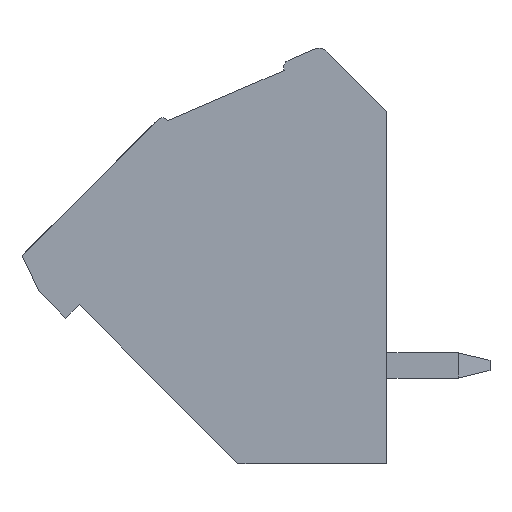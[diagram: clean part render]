
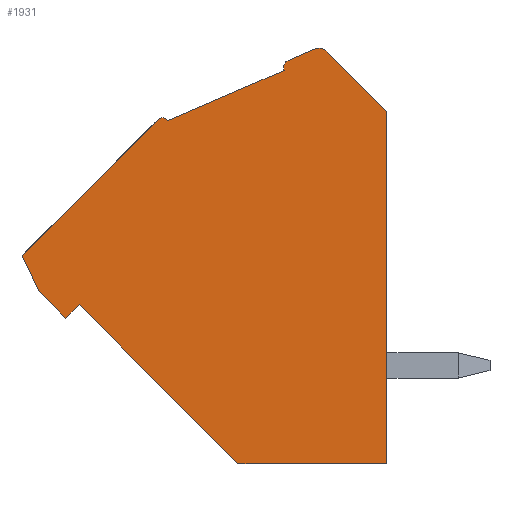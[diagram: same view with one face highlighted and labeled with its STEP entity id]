
A CAD part, left-side view. The second image highlights one B-rep face of the part: STEP entity #1931.
In plain terms, the highlighted planar face has unit normal (-1, 0, 0).
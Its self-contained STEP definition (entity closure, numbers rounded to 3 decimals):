
#1=DIRECTION('',(0.,0.707,-0.707));
#2=VECTOR('',#1,0.75);
#3=CARTESIAN_POINT('',(4.38,17.302,-12.08));
#4=LINE('',#3,#2);
#5=DIRECTION('',(0.,0.707,0.707));
#6=VECTOR('',#5,1.5);
#7=CARTESIAN_POINT('',(4.38,17.832,-12.61));
#8=LINE('',#7,#6);
#9=DIRECTION('',(0.,0.428,0.904));
#10=VECTOR('',#9,1.593);
#11=CARTESIAN_POINT('',(4.38,18.893,-11.55));
#12=LINE('',#11,#10);
#13=DIRECTION('',(0.,-0.707,0.707));
#14=VECTOR('',#13,7.6);
#15=CARTESIAN_POINT('',(4.38,19.575,-10.11));
#16=LINE('',#15,#14);
#17=CARTESIAN_POINT('',(4.38,13.989,-4.948));
#18=DIRECTION('',(1.,0.,0.));
#19=DIRECTION('',(0.,0.707,0.707));
#20=AXIS2_PLACEMENT_3D('',#17,#18,#19);
#22=DIRECTION('',(0.,-0.707,-0.707));
#23=VECTOR('',#22,0.023);
#24=CARTESIAN_POINT('',(4.38,13.777,-4.736));
#25=LINE('',#24,#23);
#26=DIRECTION('',(0.,-0.918,0.396));
#27=VECTOR('',#26,5.015);
#28=CARTESIAN_POINT('',(4.38,13.761,-4.752));
#29=LINE('',#28,#27);
#30=CARTESIAN_POINT('',(4.38,8.881,-2.646));
#31=DIRECTION('',(1.,0.,0.));
#32=DIRECTION('',(0.,0.918,-0.396));
#33=AXIS2_PLACEMENT_3D('',#30,#31,#32);
#35=DIRECTION('',(0.,-0.918,0.396));
#36=VECTOR('',#35,1.11);
#37=CARTESIAN_POINT('',(4.38,9.,-2.371));
#38=LINE('',#37,#36);
#39=CARTESIAN_POINT('',(4.38,7.782,-2.39));
#40=DIRECTION('',(1.,0.,0.));
#41=DIRECTION('',(0.,0.396,0.918));
#42=AXIS2_PLACEMENT_3D('',#39,#40,#41);
#44=DIRECTION('',(0.,-0.707,-0.707));
#45=VECTOR('',#44,3.328);
#46=CARTESIAN_POINT('',(4.38,7.429,-2.036));
#47=LINE('',#46,#45);
#48=DIRECTION('',(0.,0.707,0.707));
#49=VECTOR('',#48,8.924);
#50=CARTESIAN_POINT('',(4.38,10.992,-18.39));
#51=LINE('',#50,#49);
#72=DIRECTION('',(0.,-1.,0.));
#73=VECTOR('',#72,5.917);
#74=CARTESIAN_POINT('',(4.38,10.992,-18.39));
#75=LINE('',#74,#73);
#212=DIRECTION('',(0.,0.,1.));
#213=VECTOR('',#212,14.);
#214=CARTESIAN_POINT('',(4.38,5.075,-18.39));
#215=LINE('',#214,#213);
#1456=CARTESIAN_POINT('',(4.38,17.302,-12.08));
#1457=CARTESIAN_POINT('',(4.38,17.832,-12.61));
#1458=VERTEX_POINT('',#1456);
#1459=VERTEX_POINT('',#1457);
#1460=CARTESIAN_POINT('',(4.38,18.893,-11.55));
#1461=VERTEX_POINT('',#1460);
#1462=CARTESIAN_POINT('',(4.38,19.575,-10.11));
#1463=VERTEX_POINT('',#1462);
#1464=CARTESIAN_POINT('',(4.38,14.201,-4.736));
#1465=VERTEX_POINT('',#1464);
#1466=CARTESIAN_POINT('',(4.38,13.777,-4.736));
#1467=VERTEX_POINT('',#1466);
#1468=CARTESIAN_POINT('',(4.38,13.761,-4.752));
#1469=VERTEX_POINT('',#1468);
#1470=CARTESIAN_POINT('',(4.38,9.156,-2.765));
#1471=VERTEX_POINT('',#1470);
#1472=CARTESIAN_POINT('',(4.38,9.,-2.371));
#1473=VERTEX_POINT('',#1472);
#1474=CARTESIAN_POINT('',(4.38,7.98,-1.931));
#1475=VERTEX_POINT('',#1474);
#1476=CARTESIAN_POINT('',(4.38,7.429,-2.036));
#1477=VERTEX_POINT('',#1476);
#1478=CARTESIAN_POINT('',(4.38,5.075,-4.39));
#1479=VERTEX_POINT('',#1478);
#1480=CARTESIAN_POINT('',(4.38,5.075,-18.39));
#1481=VERTEX_POINT('',#1480);
#1482=CARTESIAN_POINT('',(4.38,10.992,-18.39));
#1483=VERTEX_POINT('',#1482);
#1896=CARTESIAN_POINT('',(4.38,5.075,-18.39));
#1897=DIRECTION('',(1.,0.,0.));
#1898=DIRECTION('',(0.,-1.,0.));
#1899=AXIS2_PLACEMENT_3D('',#1896,#1897,#1898);
#1900=PLANE('',#1899);
#1902=ORIENTED_EDGE('',*,*,#1901,.T.);
#1904=ORIENTED_EDGE('',*,*,#1903,.T.);
#1906=ORIENTED_EDGE('',*,*,#1905,.T.);
#1908=ORIENTED_EDGE('',*,*,#1907,.T.);
#1910=ORIENTED_EDGE('',*,*,#1909,.T.);
#1912=ORIENTED_EDGE('',*,*,#1911,.T.);
#1914=ORIENTED_EDGE('',*,*,#1913,.T.);
#1916=ORIENTED_EDGE('',*,*,#1915,.T.);
#1918=ORIENTED_EDGE('',*,*,#1917,.T.);
#1920=ORIENTED_EDGE('',*,*,#1919,.T.);
#1922=ORIENTED_EDGE('',*,*,#1921,.T.);
#1924=ORIENTED_EDGE('',*,*,#1923,.F.);
#1926=ORIENTED_EDGE('',*,*,#1925,.F.);
#1928=ORIENTED_EDGE('',*,*,#1927,.T.);
#1929=EDGE_LOOP('',(#1902,#1904,#1906,#1908,#1910,#1912,#1914,#1916,#1918,#1920,
#1922,#1924,#1926,#1928));
#1930=FACE_OUTER_BOUND('',#1929,.F.);
#1931=ADVANCED_FACE('',(#1930),#1900,.F.);
#21=CIRCLE('',#20,0.3);
#34=CIRCLE('',#33,0.3);
#43=CIRCLE('',#42,0.5);
#1901=EDGE_CURVE('',#1458,#1459,#4,.T.);
#1903=EDGE_CURVE('',#1459,#1461,#8,.T.);
#1905=EDGE_CURVE('',#1461,#1463,#12,.T.);
#1907=EDGE_CURVE('',#1463,#1465,#16,.T.);
#1909=EDGE_CURVE('',#1465,#1467,#21,.T.);
#1911=EDGE_CURVE('',#1467,#1469,#25,.T.);
#1913=EDGE_CURVE('',#1469,#1471,#29,.T.);
#1915=EDGE_CURVE('',#1471,#1473,#34,.T.);
#1917=EDGE_CURVE('',#1473,#1475,#38,.T.);
#1919=EDGE_CURVE('',#1475,#1477,#43,.T.);
#1921=EDGE_CURVE('',#1477,#1479,#47,.T.);
#1923=EDGE_CURVE('',#1481,#1479,#215,.T.);
#1925=EDGE_CURVE('',#1483,#1481,#75,.T.);
#1927=EDGE_CURVE('',#1483,#1458,#51,.T.);
